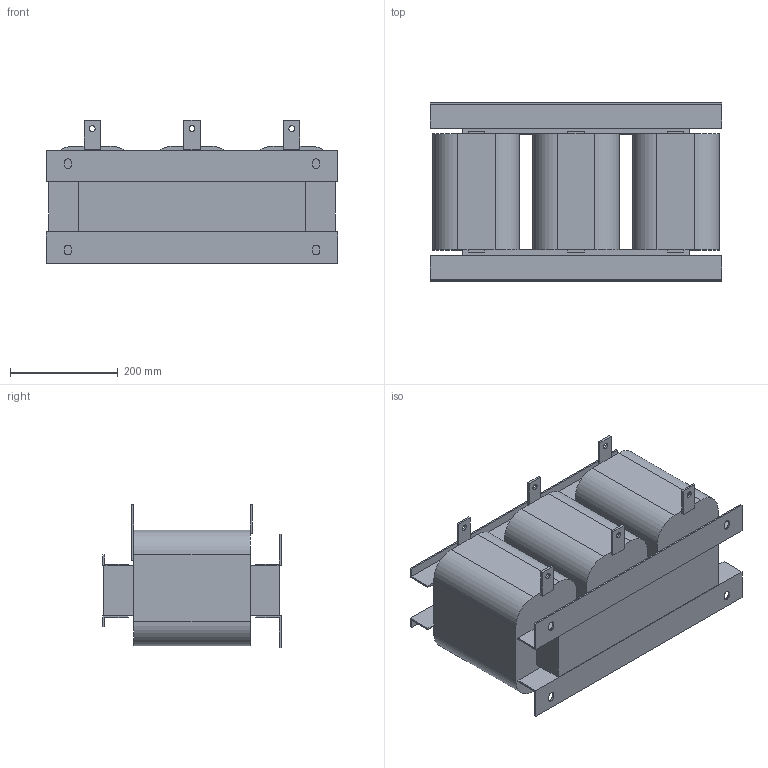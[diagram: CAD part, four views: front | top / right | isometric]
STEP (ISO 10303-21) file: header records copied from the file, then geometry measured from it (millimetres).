
FILE_DESCRIPTION(/* description */ (''),/* implementation_level */ '2;1');
FILE_NAME(/* name */ 'ACO-0270-T6-4.stp',/* time_stamp */ '2025-01-23T16:24:08+04:00',/* author */ ('Александр (огранич)'),/* organization */ (''),/* preprocessor_version */ 'ST-DEVELOPER v19.2',/* originating_system */ 'Autodesk Inventor 2024',/* authorisation */ '');
FILE_SCHEMA (('AUTOMOTIVE_DESIGN { 1 0 10303 214 3 1 1 }'));
Length unit declared in the file: millimetre
Products named in the file (1): ACO-0015-T4-4
Bounding box: 540 x 330 x 265 mm (x, y, z)
Volume: 25930019.1 mm3; surface area: 1003919 mm2
Topology: 1 solids, 1 shells, 136 faces, 378 edges, 240 vertices
Faces by surface type: plane 110, cylinder 26
Full cylindrical faces by diameter (mm): 11 x6
Entity records: 4357 total; most frequent: ORIENTED_EDGE 756, CARTESIAN_POINT 755, DIRECTION 704, EDGE_CURVE 378, LINE 326, VECTOR 326, VERTEX_POINT 240, AXIS2_PLACEMENT_3D 189
